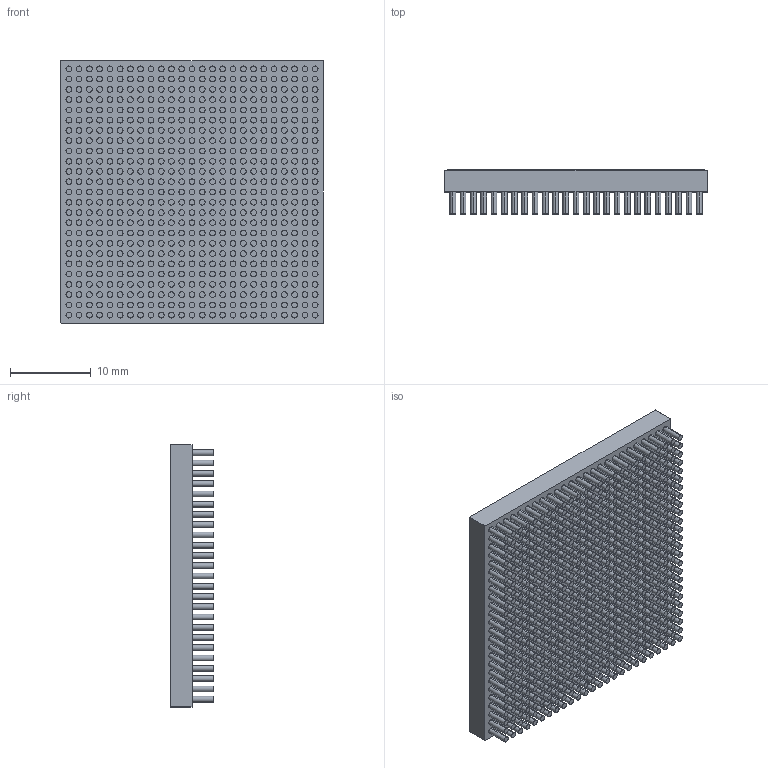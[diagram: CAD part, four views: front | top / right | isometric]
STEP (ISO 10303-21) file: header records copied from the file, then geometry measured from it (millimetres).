
FILE_DESCRIPTION (( 'STEP AP214' ), '1' );
FILE_NAME ( 'CGA625C127P25X25_3250X3250X541.STEP', '2014-04-11T12:31:19', ( '' ), ( '' ), 'FPX Expert 2013', 'PCB Libraries', '' );
FILE_SCHEMA (( 'AUTOMOTIVE_DESIGN' ));
Length unit declared in the file: millimetre
Products named in the file (1): CGA625C127P25X25_3250X3250X541
Bounding box: 32.5 x 5.42 x 32.5 mm (x, y, z)
Volume: 3534.1 mm3; surface area: 6729.9 mm2
Topology: 626 solids, 626 shells, 2548 faces, 3866 edges, 2572 vertices
Faces by surface type: plane 1275, cylinder 1265, torus 8
Entity records: 70323 total; most frequent: DIRECTION 11502, CARTESIAN_POINT 8987, ORIENTED_EDGE 7732, AXIS2_PLACEMENT_3D 5087, EDGE_CURVE 3866, STYLED_ITEM 3175, PRESENTATION_LAYER_ASSIGNMENT 3175, MECHANICAL_DESIGN_GEOMETRIC_PRESENTATION_REPRESENTATION 3175
